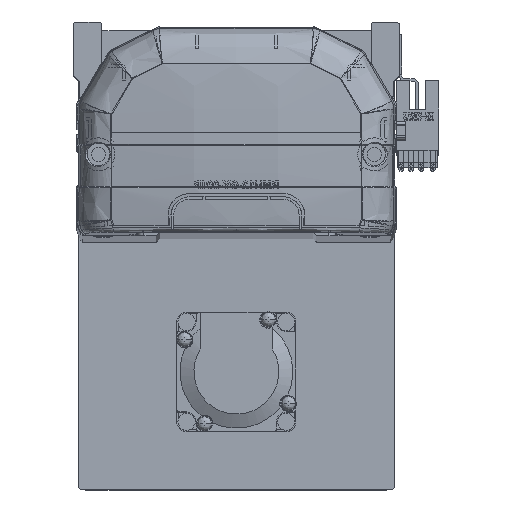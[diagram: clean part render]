
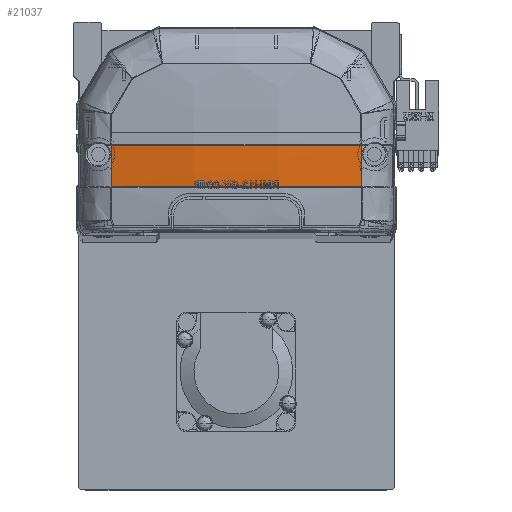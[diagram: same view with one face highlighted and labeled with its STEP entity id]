
A CAD part, top view. The second image highlights one B-rep face of the part: STEP entity #21037.
In plain terms, the highlighted free-form (B-spline) face has degree [3, 3] with [4, 4] control points.
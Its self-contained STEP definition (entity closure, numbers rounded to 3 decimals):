
#317 = CARTESIAN_POINT ( 'NONE',  ( -39.985, 15.83, -5.879 ) ) ;
#899 = CARTESIAN_POINT ( 'NONE',  ( -13.598, 19.918, -10.302 ) ) ;
#2121 = EDGE_CURVE ( 'NONE', #20656, #21614, #54588, .T. ) ;
#3753 = CARTESIAN_POINT ( 'NONE',  ( -6.692, 15.83, -8.984 ) ) ;
#3867 = EDGE_LOOP ( 'NONE', ( #59410, #8555, #7589, #38375 ) ) ;
#4085 =( BOUNDED_SURFACE ( )  B_SPLINE_SURFACE ( 3, 3, ( 
 ( #23697, #10415, #42983, #28769 ),
 ( #14311, #38120, #18968, #56411 ),
 ( #52348, #899, #33219, #42581 ),
 ( #15108, #52151, #14694, #10207 ) ),
 .UNSPECIFIED., .F., .F., .F. ) 
 B_SPLINE_SURFACE_WITH_KNOTS ( ( 4, 4 ),
 ( 4, 4 ),
 ( 0., 1. ),
 ( 0., 1. ),
 .UNSPECIFIED. ) 
 GEOMETRIC_REPRESENTATION_ITEM ( )  RATIONAL_B_SPLINE_SURFACE ( (
 ( 1., 1., 1., 1.),
 ( 0.992, 0.992, 0.992, 0.992),
 ( 0.992, 0.992, 0.992, 0.992),
 ( 1., 1., 1., 1.) ) ) 
 REPRESENTATION_ITEM ( '' )  SURFACE ( )  );
#4171 = CARTESIAN_POINT ( 'NONE',  ( -13.384, 15.83, -8.724 ) ) ;
#5656 = VERTEX_POINT ( 'NONE', #41957 ) ;
#7589 = ORIENTED_EDGE ( 'NONE', *, *, #10442, .T. ) ;
#8555 = ORIENTED_EDGE ( 'NONE', *, *, #47864, .F. ) ;
#10207 = CARTESIAN_POINT ( 'NONE',  ( -40.461, 28.832, -6.296 ) ) ;
#10415 = CARTESIAN_POINT ( 'NONE',  ( 40.461, 20.111, -6.066 ) ) ;
#10442 = EDGE_CURVE ( 'NONE', #22662, #21614, #56714, .T. ) ;
#12271 = CARTESIAN_POINT ( 'NONE',  ( -13.373, 28.707, -9.468 ) ) ;
#13496 = CARTESIAN_POINT ( 'NONE',  ( -39.985, 15.83, -5.879 ) ) ;
#14311 = CARTESIAN_POINT ( 'NONE',  ( 13.598, 15.499, -10.032 ) ) ;
#14694 = CARTESIAN_POINT ( 'NONE',  ( -40.461, 24.47, -6.231 ) ) ;
#15108 = CARTESIAN_POINT ( 'NONE',  ( -40.461, 15.757, -5.8 ) ) ;
#15853 = CARTESIAN_POINT ( 'NONE',  ( -39.985, 15.83, -5.879 ) ) ;
#17111 = B_SPLINE_CURVE_WITH_KNOTS ( 'NONE', 3,
 ( #53813, #53612, #12271, #35061, #34676, #44233 ),
 .UNSPECIFIED., .F., .F.,
 ( 4, 2, 4 ),
 ( 0., 0.5, 1. ),
 .UNSPECIFIED. ) ;
#17909 = CARTESIAN_POINT ( 'NONE',  ( 39.973, 20.12, -6.142 ) ) ;
#18088 = CARTESIAN_POINT ( 'NONE',  ( 39.966, 24.413, -6.306 ) ) ;
#18968 = CARTESIAN_POINT ( 'NONE',  ( 13.598, 24.342, -10.47 ) ) ;
#20656 = VERTEX_POINT ( 'NONE', #24373 ) ;
#21037 = ADVANCED_FACE ( 'NONE', ( #39111 ), #4085, .F. ) ;
#21252 = CARTESIAN_POINT ( 'NONE',  ( 26.761, 15.83, -7.945 ) ) ;
#21614 = VERTEX_POINT ( 'NONE', #15853 ) ;
#22661 = CARTESIAN_POINT ( 'NONE',  ( -26.721, 15.83, -7.624 ) ) ;
#22662 = VERTEX_POINT ( 'NONE', #23557 ) ;
#23557 = CARTESIAN_POINT ( 'NONE',  ( -39.963, 28.706, -6.372 ) ) ;
#23697 = CARTESIAN_POINT ( 'NONE',  ( 40.461, 15.757, -5.8 ) ) ;
#24373 = CARTESIAN_POINT ( 'NONE',  ( 39.985, 15.83, -5.879 ) ) ;
#27073 = CARTESIAN_POINT ( 'NONE',  ( 39.985, 15.83, -5.879 ) ) ;
#27758 = CARTESIAN_POINT ( 'NONE',  ( -33.365, 15.83, -6.848 ) ) ;
#28208 = B_SPLINE_CURVE_WITH_KNOTS ( 'NONE', 3,
 ( #27073, #17909, #18088, #50646 ),
 .UNSPECIFIED., .F., .F.,
 ( 4, 4 ),
 ( 0., 1. ),
 .UNSPECIFIED. ) ;
#28769 = CARTESIAN_POINT ( 'NONE',  ( 40.461, 28.832, -6.296 ) ) ;
#33219 = CARTESIAN_POINT ( 'NONE',  ( -13.598, 24.342, -10.47 ) ) ;
#34676 = CARTESIAN_POINT ( 'NONE',  ( 26.749, 28.706, -8.432 ) ) ;
#35061 = CARTESIAN_POINT ( 'NONE',  ( 13.375, 28.707, -9.468 ) ) ;
#36512 = CARTESIAN_POINT ( 'NONE',  ( -23.389, 15.83, -7.947 ) ) ;
#38120 = CARTESIAN_POINT ( 'NONE',  ( 13.598, 19.918, -10.302 ) ) ;
#38375 = ORIENTED_EDGE ( 'NONE', *, *, #2121, .F. ) ;
#39111 = FACE_OUTER_BOUND ( 'NONE', #3867, .T. ) ;
#41957 = CARTESIAN_POINT ( 'NONE',  ( 39.963, 28.706, -6.372 ) ) ;
#42581 = CARTESIAN_POINT ( 'NONE',  ( -13.598, 28.769, -10.535 ) ) ;
#42983 = CARTESIAN_POINT ( 'NONE',  ( 40.461, 24.47, -6.231 ) ) ;
#44233 = CARTESIAN_POINT ( 'NONE',  ( 39.963, 28.706, -6.372 ) ) ;
#46034 = CARTESIAN_POINT ( 'NONE',  ( -36.679, 15.83, -6.395 ) ) ;
#46238 = CARTESIAN_POINT ( 'NONE',  ( 13.38, 15.83, -8.984 ) ) ;
#46849 = CARTESIAN_POINT ( 'NONE',  ( -39.966, 24.412, -6.306 ) ) ;
#47252 = CARTESIAN_POINT ( 'NONE',  ( -39.973, 20.118, -6.142 ) ) ;
#47864 = EDGE_CURVE ( 'NONE', #22662, #5656, #17111, .T. ) ;
#50646 = CARTESIAN_POINT ( 'NONE',  ( 39.963, 28.706, -6.372 ) ) ;
#52151 = CARTESIAN_POINT ( 'NONE',  ( -40.461, 20.111, -6.066 ) ) ;
#52348 = CARTESIAN_POINT ( 'NONE',  ( -13.598, 15.499, -10.032 ) ) ;
#53612 = CARTESIAN_POINT ( 'NONE',  ( -26.748, 28.706, -8.432 ) ) ;
#53813 = CARTESIAN_POINT ( 'NONE',  ( -39.963, 28.706, -6.372 ) ) ;
#54588 = B_SPLINE_CURVE_WITH_KNOTS ( 'NONE', 3,
 ( #59089, #21252, #46238, #3753, #4171, #36512, #22661, #27758, #46034, #13496 ),
 .UNSPECIFIED., .F., .F.,
 ( 4, 2, 2, 2, 4 ),
 ( 0., 0.04, 0.06, 0.07, 0.08 ),
 .UNSPECIFIED. ) ;
#55406 = CARTESIAN_POINT ( 'NONE',  ( -39.963, 28.706, -6.372 ) ) ;
#56411 = CARTESIAN_POINT ( 'NONE',  ( 13.598, 28.769, -10.535 ) ) ;
#56433 = EDGE_CURVE ( 'NONE', #20656, #5656, #28208, .T. ) ;
#56714 = B_SPLINE_CURVE_WITH_KNOTS ( 'NONE', 3,
 ( #55406, #46849, #47252, #317 ),
 .UNSPECIFIED., .F., .F.,
 ( 4, 4 ),
 ( 0., 1. ),
 .UNSPECIFIED. ) ;
#59089 = CARTESIAN_POINT ( 'NONE',  ( 39.985, 15.83, -5.879 ) ) ;
#59410 = ORIENTED_EDGE ( 'NONE', *, *, #56433, .T. ) ;
